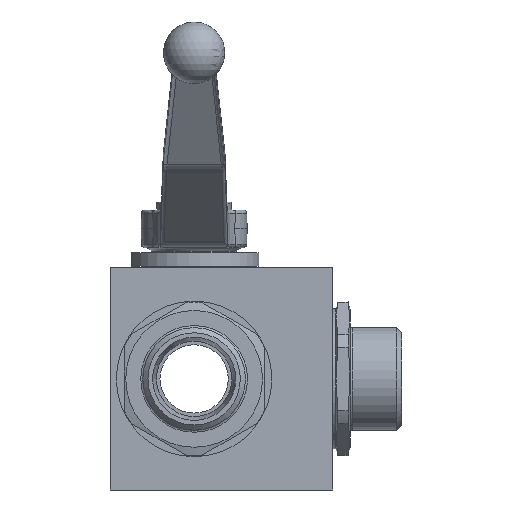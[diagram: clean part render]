
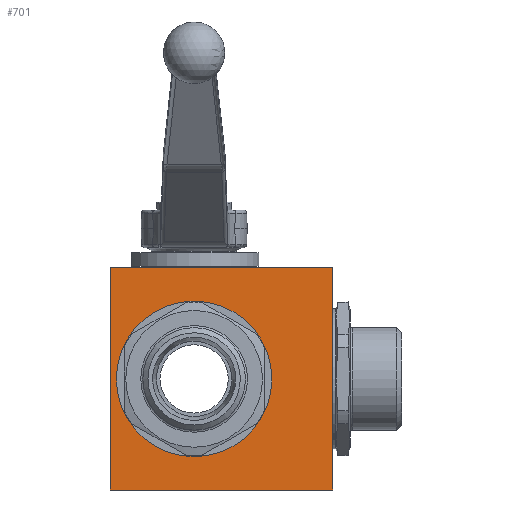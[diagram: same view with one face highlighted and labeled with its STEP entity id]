
A CAD part, front view. The second image highlights one B-rep face of the part: STEP entity #701.
In plain terms, the highlighted planar face has unit normal (0, -1, 0).
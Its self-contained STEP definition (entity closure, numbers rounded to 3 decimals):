
#701 = ADVANCED_FACE( '', ( #1543, #1544 ), #1545, .T. );
#1543 = FACE_BOUND( '', #2707, .T. );
#1544 = FACE_OUTER_BOUND( '', #2708, .T. );
#1545 = PLANE( '', #2709 );
#2707 = EDGE_LOOP( '', ( #4976 ) );
#2708 = EDGE_LOOP( '', ( #4977, #4978, #4979, #4980 ) );
#2709 = AXIS2_PLACEMENT_3D( '', #4981, #4982, #4983 );
#4976 = ORIENTED_EDGE( '', *, *, #7558, .F. );
#4977 = ORIENTED_EDGE( '', *, *, #7559, .T. );
#4978 = ORIENTED_EDGE( '', *, *, #7560, .T. );
#4979 = ORIENTED_EDGE( '', *, *, #7561, .T. );
#4980 = ORIENTED_EDGE( '', *, *, #7562, .T. );
#4981 = CARTESIAN_POINT( '', ( -24.5, -31.1, -32.5 ) );
#4982 = DIRECTION( '', ( 0., -1., 0. ) );
#4983 = DIRECTION( '', ( 0., 0., -1. ) );
#7558 = EDGE_CURVE( '', #8907, #8907, #8908, .T. );
#7559 = EDGE_CURVE( '', #8909, #8910, #8911, .T. );
#7560 = EDGE_CURVE( '', #8910, #8912, #8913, .T. );
#7561 = EDGE_CURVE( '', #8912, #8914, #8915, .T. );
#7562 = EDGE_CURVE( '', #8914, #8909, #8916, .T. );
#8907 = VERTEX_POINT( '', #11418 );
#8908 = CIRCLE( '', #11419, 22.75 );
#8909 = VERTEX_POINT( '', #11420 );
#8910 = VERTEX_POINT( '', #11421 );
#8911 = LINE( '', #11422, #11423 );
#8912 = VERTEX_POINT( '', #11424 );
#8913 = LINE( '', #11425, #11426 );
#8914 = VERTEX_POINT( '', #11427 );
#8915 = LINE( '', #11428, #11429 );
#8916 = LINE( '', #11430, #11431 );
#11418 = CARTESIAN_POINT( '', ( 22.75, -31.1, 0. ) );
#11419 = AXIS2_PLACEMENT_3D( '', #14544, #14545, #14546 );
#11420 = CARTESIAN_POINT( '', ( -24.5, -31.1, 32.5 ) );
#11421 = CARTESIAN_POINT( '', ( -24.5, -31.1, -32.5 ) );
#11422 = CARTESIAN_POINT( '', ( -24.5, -31.1, 32.5 ) );
#11423 = VECTOR( '', #14547, 1000. );
#11424 = CARTESIAN_POINT( '', ( 40.5, -31.1, -32.5 ) );
#11425 = CARTESIAN_POINT( '', ( -24.5, -31.1, -32.5 ) );
#11426 = VECTOR( '', #14548, 1000. );
#11427 = CARTESIAN_POINT( '', ( 40.5, -31.1, 32.5 ) );
#11428 = CARTESIAN_POINT( '', ( 40.5, -31.1, -32.5 ) );
#11429 = VECTOR( '', #14549, 1000. );
#11430 = CARTESIAN_POINT( '', ( 40.5, -31.1, 32.5 ) );
#11431 = VECTOR( '', #14550, 1000. );
#14544 = CARTESIAN_POINT( '', ( 0., -31.1, 0. ) );
#14545 = DIRECTION( '', ( 0., -1., 0. ) );
#14546 = DIRECTION( '', ( 1., 0., 0. ) );
#14547 = DIRECTION( '', ( 0., 0., -1. ) );
#14548 = DIRECTION( '', ( 1., 0., 0. ) );
#14549 = DIRECTION( '', ( 0., 0., 1. ) );
#14550 = DIRECTION( '', ( -1., 0., 0. ) );
